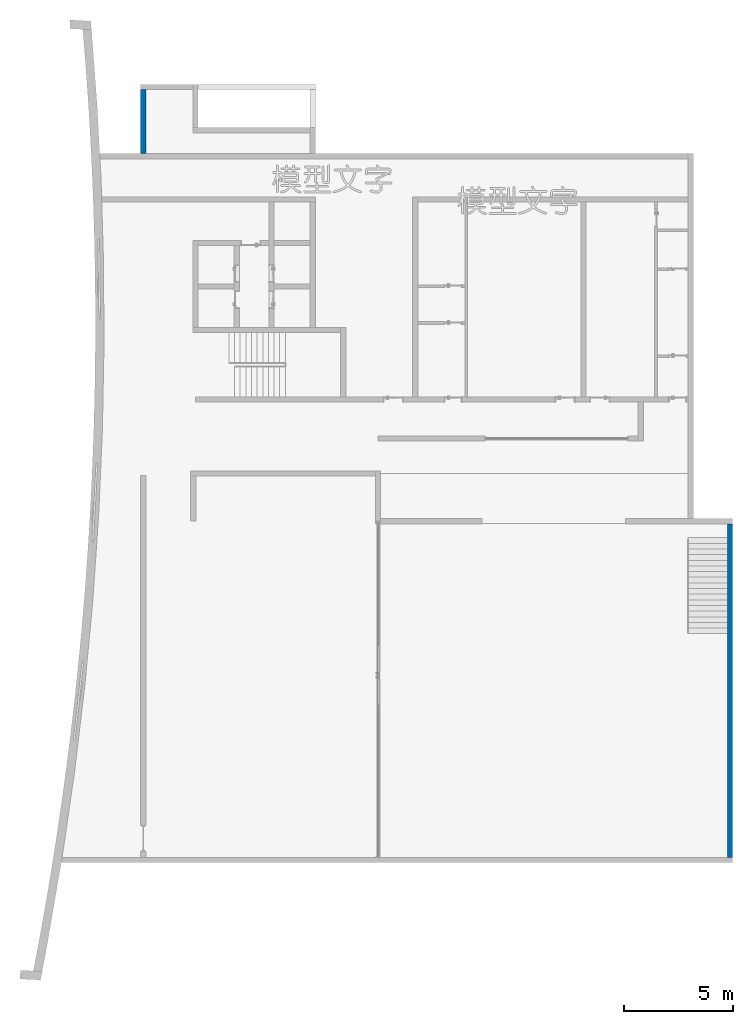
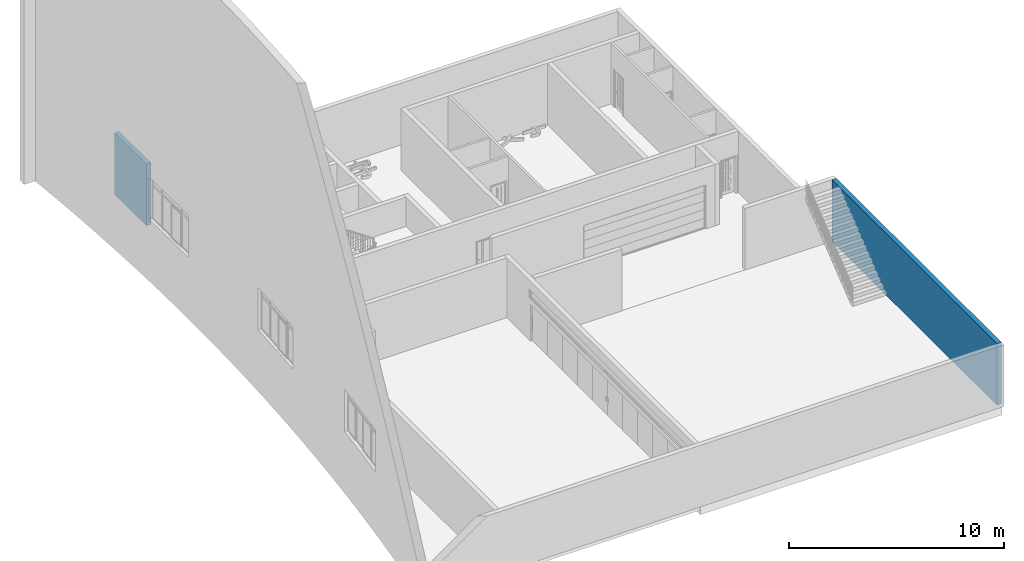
# One storey, part 16 of 24: 2 walls.
"""IFC2X3 building model written with IfcOpenShell, lengths in millimetres."""

from ifc_helpers import new_model, entity, si_unit, converted_unit, derived_unit, direction, frame, frame_2d, origin, place, context, subcontext, project, spatial, rectangle, extrude, material, layer, layer_set, layer_usage, type_object, element, save


model = new_model("IFC2X3")

# Units and contexts
model_context = context("Model", 3, precision=0.01, world=origin(), true_north=direction((6.12303176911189e-17, 1.0)))
body_context = subcontext(model_context, "Body", "Model", "MODEL_VIEW")
ifc_project = project(units=[si_unit("LENGTHUNIT", "METRE", prefix="MILLI"), si_unit("AREAUNIT", "SQUARE_METRE"), si_unit("VOLUMEUNIT", "CUBIC_METRE"), converted_unit("PLANEANGLEUNIT", "DEGREE", entity("IfcRatioMeasure", 0.0174532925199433), si_unit("PLANEANGLEUNIT", "RADIAN"), dimensions=[0, 0, 0, 0, 0, 0, 0]), si_unit("MASSUNIT", "GRAM", prefix="KILO"), derived_unit("MASSDENSITYUNIT", [(si_unit("MASSUNIT", "GRAM", prefix="KILO"), 1), (si_unit("LENGTHUNIT", "METRE"), -3)]), si_unit("TIMEUNIT", "SECOND"), si_unit("FREQUENCYUNIT", "HERTZ"), si_unit("THERMODYNAMICTEMPERATUREUNIT", "DEGREE_CELSIUS"), derived_unit("THERMALTRANSMITTANCEUNIT", [(si_unit("MASSUNIT", "GRAM", prefix="KILO"), 1), (si_unit("THERMODYNAMICTEMPERATUREUNIT", "KELVIN"), -1), (si_unit("TIMEUNIT", "SECOND"), -3)]), derived_unit("VOLUMETRICFLOWRATEUNIT", [(si_unit("LENGTHUNIT", "METRE"), 3), (si_unit("TIMEUNIT", "SECOND"), -1)]), si_unit("ELECTRICCURRENTUNIT", "AMPERE"), si_unit("ELECTRICVOLTAGEUNIT", "VOLT"), si_unit("POWERUNIT", "WATT"), si_unit("FORCEUNIT", "NEWTON", prefix="KILO"), si_unit("ILLUMINANCEUNIT", "LUX"), si_unit("LUMINOUSFLUXUNIT", "LUMEN"), si_unit("LUMINOUSINTENSITYUNIT", "CANDELA"), derived_unit("USERDEFINED", [(si_unit("MASSUNIT", "GRAM", prefix="KILO"), -1), (si_unit("LENGTHUNIT", "METRE"), -2), (si_unit("TIMEUNIT", "SECOND"), 3), (si_unit("LUMINOUSFLUXUNIT", "LUMEN"), 1)]), derived_unit("LINEARVELOCITYUNIT", [(si_unit("LENGTHUNIT", "METRE"), 1), (si_unit("TIMEUNIT", "SECOND"), -1)]), si_unit("PRESSUREUNIT", "PASCAL"), derived_unit("USERDEFINED", [(si_unit("LENGTHUNIT", "METRE"), -2), (si_unit("MASSUNIT", "GRAM", prefix="KILO"), 1), (si_unit("TIMEUNIT", "SECOND"), -2)])], contexts=[model_context])

# Site, building, storey
site_placement = place(None, origin())
site = spatial("IfcSite", under=ifc_project, at=site_placement, Name="表面", CompositionType="ELEMENT")
building_placement = place(site_placement, origin())
building = spatial("IfcBuilding", under=site, at=building_placement, CompositionType="ELEMENT")
storey_placement = place(building_placement, frame((0.0, 0.0, -3500.0)))
storey = spatial("IfcBuildingStorey", under=building, at=storey_placement, Name="-1F", CompositionType="ELEMENT", Elevation=-3500.0)

# Walls
ifc_material_1 = material(Name="白色涂料")
ifc_layer_1 = layer(ifc_material_1, 10.0)
ifc_material_2 = material(Name="默认墙")
ifc_layer_2 = layer(ifc_material_2, 220.0)
ifc_layer_3 = layer(ifc_material_1, 10.0)
ifc_layer_set = layer_set([ifc_layer_1, ifc_layer_2, ifc_layer_3], Name="基本墙:粉刷墙240")
ifc_layer_usage_1 = layer_usage(ifc_layer_set, "AXIS2", "NEGATIVE", 120.0)
wall_type = type_object("IfcWallType", Name="基本墙:粉刷墙240", PredefinedType="STANDARD", material=ifc_layer_set)
wall_1_placement = place(storey_placement, frame((12569.7500873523, -29787.8459129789, 0.0), z_axis=(0.0, 0.0, 1.0), x_axis=(0.0, 1.0, 0.0)))
element("IfcWallStandardCase", 1, at=wall_1_placement, inside=storey, type_object=wall_type, material=ifc_layer_usage_1, Name="基本墙:粉刷墙240", ObjectType="基本墙:粉刷墙240", context=body_context, shape_type="SweptSolid", body=[
    extrude(rectangle(XDim=15360.0, YDim=240.000000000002, at=frame_2d((7680.0, -2.06057393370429e-13), x_axis=(-1.0, 0.0))), origin(), (0.0, 0.0, 1.0), 3500.0),
])
ifc_layer_usage_2 = layer_usage(ifc_layer_set, "AXIS2", "NEGATIVE", 120.0)
wall_2_placement = place(storey_placement, frame((-14430.2499126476, 5563.13157334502, 0.0), z_axis=(0.0, 0.0, 1.0), x_axis=(0.0, -1.0, 0.0)))
element("IfcWallStandardCase", 2, at=wall_2_placement, inside=storey, type_object=wall_type, material=ifc_layer_usage_2, Name="基本墙:粉刷墙240", ObjectType="基本墙:粉刷墙240", context=body_context, shape_type="SweptSolid", body=[
    extrude(rectangle(XDim=2950.97748632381, YDim=240.000000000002, at=frame_2d((1475.48874316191, -1.63424829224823e-13), x_axis=(-1.0, 0.0))), origin(), (0.0, 0.0, 1.0), 3500.0),
])

save(model, "model.ifc")
